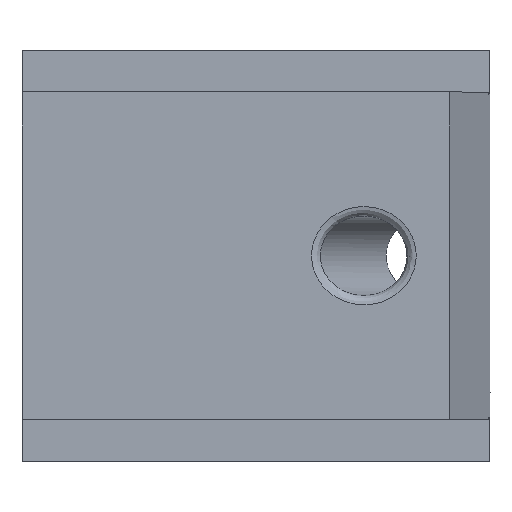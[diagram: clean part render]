
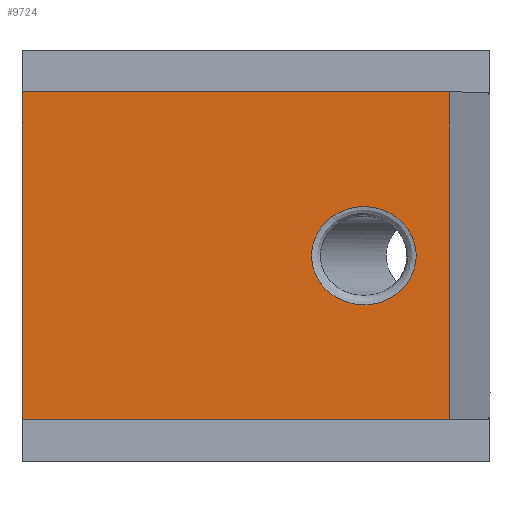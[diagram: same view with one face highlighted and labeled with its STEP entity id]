
A CAD part, top view. The second image highlights one B-rep face of the part: STEP entity #9724.
In plain terms, the highlighted planar face has unit normal (0, 0, 1).
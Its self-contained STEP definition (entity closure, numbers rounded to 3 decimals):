
#239 = CARTESIAN_POINT ( 'NONE',  ( 42.111, 0., 20. ) ) ;
#402 = ORIENTED_EDGE ( 'NONE', *, *, #11048, .T. ) ;
#477 = VERTEX_POINT ( 'NONE', #3214 ) ;
#785 = CARTESIAN_POINT ( 'NONE',  ( 30.937, 10.5, 20. ) ) ;
#805 = DIRECTION ( 'NONE',  ( 0., 0., -1. ) ) ;
#824 = ORIENTED_EDGE ( 'NONE', *, *, #9977, .F. ) ;
#925 = PLANE ( 'NONE',  #6339 ) ;
#2018 = LINE ( 'NONE', #9288, #2897 ) ;
#2897 = VECTOR ( 'NONE', #4780, 1000. ) ;
#3214 = CARTESIAN_POINT ( 'NONE',  ( 0., 17.5, 20. ) ) ;
#3494 = CARTESIAN_POINT ( 'NONE',  ( 30.937, -10.5, 20. ) ) ;
#3817 = VERTEX_POINT ( 'NONE', #11257 ) ;
#3835 = LINE ( 'NONE', #11166, #9513 ) ;
#4087 = ORIENTED_EDGE ( 'NONE', *, *, #8596, .T. ) ;
#4098 = LINE ( 'NONE', #6012, #5869 ) ;
#4129 = EDGE_LOOP ( 'NONE', ( #4087 ) ) ;
#4210 = DIRECTION ( 'NONE',  ( 0., -1., 0. ) ) ;
#4393 = CARTESIAN_POINT ( 'NONE',  ( 42.111, 0., 20. ) ) ;
#4535 = CARTESIAN_POINT ( 'NONE',  ( 0., 17.5, 20. ) ) ;
#4780 = DIRECTION ( 'NONE',  ( 1., 0., 0. ) ) ;
#4949 = DIRECTION ( 'NONE',  ( 0., -1., 0. ) ) ;
#5435 = FACE_BOUND ( 'NONE', #4129, .T. ) ;
#5869 = VECTOR ( 'NONE', #4210, 1000. ) ;
#5888 = EDGE_LOOP ( 'NONE', ( #402, #824, #7519, #9315 ) ) ;
#6012 = CARTESIAN_POINT ( 'NONE',  ( 0., 17.5, 20. ) ) ;
#6328 = DIRECTION ( 'NONE',  ( -1., 0., 0. ) ) ;
#6339 = AXIS2_PLACEMENT_3D ( 'NONE', #4535, #805, #6328 ) ;
#6352 = VERTEX_POINT ( 'NONE', #10723 ) ;
#7150 = CARTESIAN_POINT ( 'NONE',  ( 30.937, 0., 20. ) ) ;
#7471 = CARTESIAN_POINT ( 'NONE',  ( 45.632, 17.5, 20. ) ) ;
#7519 = ORIENTED_EDGE ( 'NONE', *, *, #8840, .F. ) ;
#8055 = CARTESIAN_POINT ( 'NONE',  ( 42.111, -10.5, 20. ) ) ;
#8458 = DIRECTION ( 'NONE',  ( 1., 0., 0. ) ) ;
#8477 = VERTEX_POINT ( 'NONE', #239 ) ;
#8596 = EDGE_CURVE ( 'NONE', #8477, #8477, #9940, .T. ) ;
#8840 = EDGE_CURVE ( 'NONE', #477, #3817, #2018, .T. ) ;
#8894 = CARTESIAN_POINT ( 'NONE',  ( 42.111, 0., 20. ) ) ;
#9035 = VECTOR ( 'NONE', #4949, 1000. ) ;
#9288 = CARTESIAN_POINT ( 'NONE',  ( 0., 17.5, 20. ) ) ;
#9315 = ORIENTED_EDGE ( 'NONE', *, *, #10347, .T. ) ;
#9513 = VECTOR ( 'NONE', #8458, 1000. ) ;
#9724 = ADVANCED_FACE ( 'NONE', ( #5435, #11753 ), #925, .F. ) ;
#9940 =( BOUNDED_CURVE ( )  B_SPLINE_CURVE ( 3, ( #4393, #8055, #3494, #7150, #785, #10816, #8894 ),
 .UNSPECIFIED., .T., .F. ) 
 B_SPLINE_CURVE_WITH_KNOTS ( ( 4, 3, 4 ),
 ( 0., 3.142, 6.283 ),
 .UNSPECIFIED. ) 
 CURVE ( )  GEOMETRIC_REPRESENTATION_ITEM ( )  RATIONAL_B_SPLINE_CURVE ( ( 1., 0.333, 0.333, 1., 0.333, 0.333, 1. ) ) 
 REPRESENTATION_ITEM ( '' )  );
#9977 = EDGE_CURVE ( 'NONE', #3817, #11759, #10182, .T. ) ;
#10182 = LINE ( 'NONE', #7471, #9035 ) ;
#10347 = EDGE_CURVE ( 'NONE', #477, #6352, #4098, .T. ) ;
#10723 = CARTESIAN_POINT ( 'NONE',  ( 0., -17.5, 20. ) ) ;
#10816 = CARTESIAN_POINT ( 'NONE',  ( 42.111, 10.5, 20. ) ) ;
#11048 = EDGE_CURVE ( 'NONE', #6352, #11759, #3835, .T. ) ;
#11166 = CARTESIAN_POINT ( 'NONE',  ( 0., -17.5, 20. ) ) ;
#11257 = CARTESIAN_POINT ( 'NONE',  ( 45.632, 17.5, 20. ) ) ;
#11615 = CARTESIAN_POINT ( 'NONE',  ( 45.632, -17.5, 20. ) ) ;
#11753 = FACE_OUTER_BOUND ( 'NONE', #5888, .T. ) ;
#11759 = VERTEX_POINT ( 'NONE', #11615 ) ;
